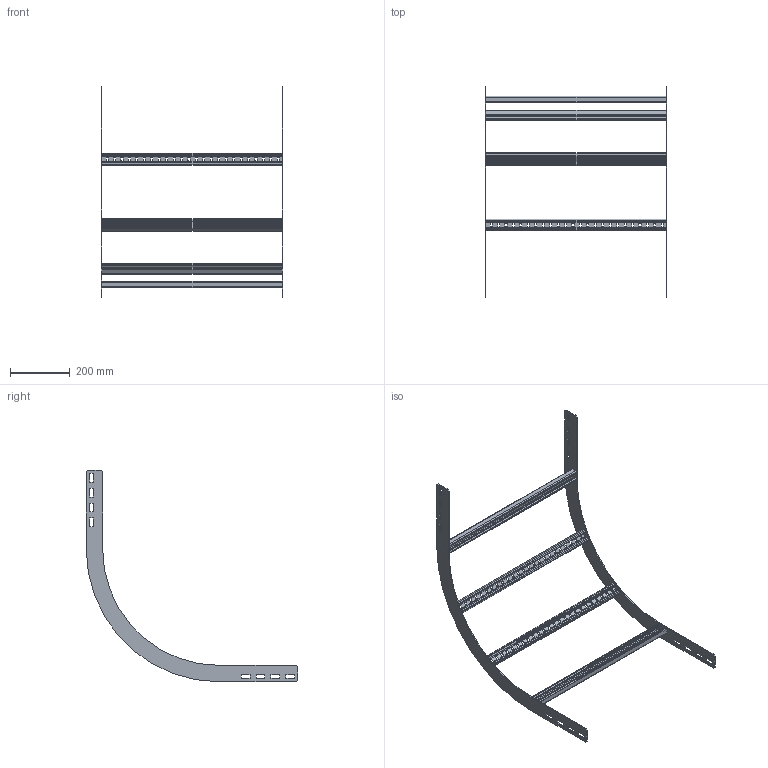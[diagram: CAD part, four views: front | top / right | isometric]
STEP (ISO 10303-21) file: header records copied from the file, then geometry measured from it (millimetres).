
FILE_DESCRIPTION(('Creo Elements/Direct Modeling STEP Export'),'2;1');
FILE_NAME('//pserver/office/EK/ME10-3D/3D-output/WPOR06-60-90-30.stp','2019-08-14T 9:42:36',(''),(''),'PTC Creo Elements/Direct Modeling STEP processor for AP214 (Solid Model)','PTC Creo Elements/Direct Modeling 19.0C 15-Aug-2015 (C) Parametric Technology GmbH','');
FILE_SCHEMA(('AUTOMOTIVE_DESIGN { 1 0 10303 214 1 1 1 1 }'));
Length unit declared in the file: millimetre
Products named in the file (3): WPORS_60-90-300.002; WPBS60; WPOR06-60-90-30
Assembly tree (6 placements, depth 2):
  WPOR06-60-90-30
    WPBS60  x4
    WPORS_60-90-300.002  x2
Bounding box: 611 x 710 x 710 mm (x, y, z)
Volume: 727610.8 mm3; surface area: 753653.7 mm2
Topology: 6 solids, 6 shells, 636 faces, 1872 edges, 1248 vertices
Faces by surface type: plane 368, cylinder 268
Entity records: 6284 total; most frequent: CARTESIAN_POINT 1078, ORIENTED_EDGE 1068, DIRECTION 1046, EDGE_CURVE 534, VECTOR 398, LINE 398, VERTEX_POINT 356, AXIS2_PLACEMENT_3D 324
